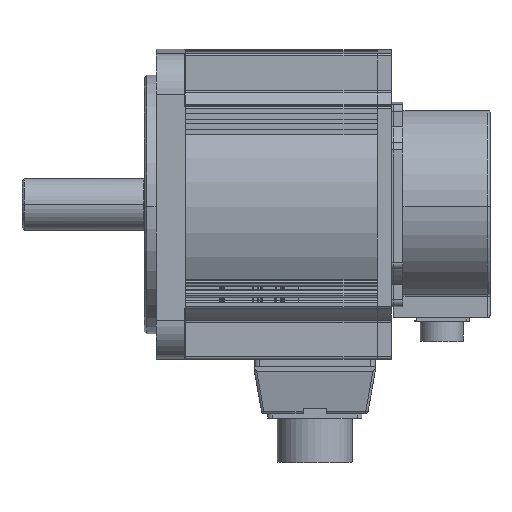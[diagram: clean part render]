
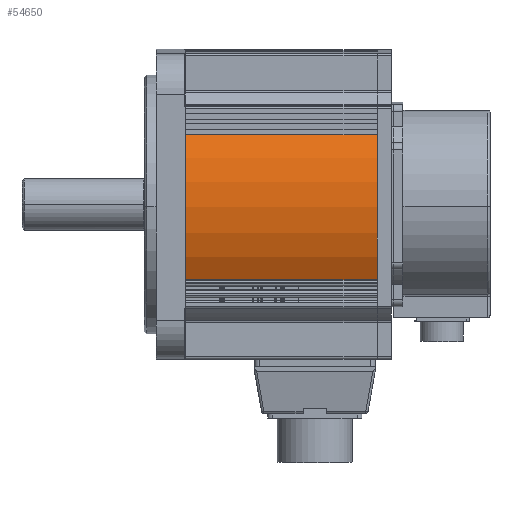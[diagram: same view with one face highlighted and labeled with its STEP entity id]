
A CAD part, top view. The second image highlights one B-rep face of the part: STEP entity #54650.
In plain terms, the highlighted cylindrical face has radius 65 mm (diameter 130 mm), a partial arc.
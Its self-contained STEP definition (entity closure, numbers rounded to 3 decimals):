
#462 = CARTESIAN_POINT ( 'NONE',  ( 83.147, 0., 0. ) ) ;
#968 = DIRECTION ( 'NONE',  ( 1., 0., 0. ) ) ;
#1437 = CYLINDRICAL_SURFACE ( 'NONE', #52011, 65. ) ;
#1650 = DIRECTION ( 'NONE',  ( 0., 1., 0.021 ) ) ;
#2431 = VERTEX_POINT ( 'NONE', #70654 ) ;
#4169 = VERTEX_POINT ( 'NONE', #7209 ) ;
#5994 = ORIENTED_EDGE ( 'NONE', *, *, #58411, .T. ) ;
#7209 = CARTESIAN_POINT ( 'NONE',  ( 1.647, -32.213, 56.456 ) ) ;
#11588 = DIRECTION ( 'NONE',  ( -1., 0., 0. ) ) ;
#16631 = ORIENTED_EDGE ( 'NONE', *, *, #22408, .T. ) ;
#16968 = ORIENTED_EDGE ( 'NONE', *, *, #71897, .F. ) ;
#19510 = CARTESIAN_POINT ( 'NONE',  ( 83.147, -32.213, 56.456 ) ) ;
#22291 = DIRECTION ( 'NONE',  ( -1., 0., 0. ) ) ;
#22408 = EDGE_CURVE ( 'NONE', #50248, #2431, #61840, .T. ) ;
#22545 = EDGE_CURVE ( 'NONE', #50248, #67124, #68979, .T. ) ;
#28108 = DIRECTION ( 'NONE',  ( 0., -1., -0.021 ) ) ;
#34363 = AXIS2_PLACEMENT_3D ( 'NONE', #462, #968, #41324 ) ;
#37190 = CARTESIAN_POINT ( 'NONE',  ( 1.647, 0., 0. ) ) ;
#39711 = CARTESIAN_POINT ( 'NONE',  ( 83.147, 0., 0. ) ) ;
#40263 = ORIENTED_EDGE ( 'NONE', *, *, #22545, .F. ) ;
#41324 = DIRECTION ( 'NONE',  ( 0., 1., 0.021 ) ) ;
#43884 = FACE_OUTER_BOUND ( 'NONE', #63070, .T. ) ;
#45513 = AXIS2_PLACEMENT_3D ( 'NONE', #37190, #47879, #1650 ) ;
#46308 = VECTOR ( 'NONE', #11588, 1000. ) ;
#47879 = DIRECTION ( 'NONE',  ( 1., 0., 0. ) ) ;
#50248 = VERTEX_POINT ( 'NONE', #65020 ) ;
#50411 = CARTESIAN_POINT ( 'NONE',  ( 83.147, -32.213, 56.456 ) ) ;
#52011 = AXIS2_PLACEMENT_3D ( 'NONE', #39711, #22291, #28108 ) ;
#52043 = CARTESIAN_POINT ( 'NONE',  ( 83.147, 29.773, 57.78 ) ) ;
#54329 = LINE ( 'NONE', #19510, #71636 ) ;
#54650 = ADVANCED_FACE ( 'NONE', ( #43884 ), #1437, .T. ) ;
#58411 = EDGE_CURVE ( 'NONE', #2431, #4169, #70401, .T. ) ;
#59031 = DIRECTION ( 'NONE',  ( -1., 0., 0. ) ) ;
#61840 = LINE ( 'NONE', #52043, #46308 ) ;
#63070 = EDGE_LOOP ( 'NONE', ( #5994, #16968, #40263, #16631 ) ) ;
#65020 = CARTESIAN_POINT ( 'NONE',  ( 83.147, 29.773, 57.78 ) ) ;
#67124 = VERTEX_POINT ( 'NONE', #50411 ) ;
#68979 = CIRCLE ( 'NONE', #34363, 65. ) ;
#70401 = CIRCLE ( 'NONE', #45513, 65. ) ;
#70654 = CARTESIAN_POINT ( 'NONE',  ( 1.647, 29.773, 57.78 ) ) ;
#71636 = VECTOR ( 'NONE', #59031, 1000. ) ;
#71897 = EDGE_CURVE ( 'NONE', #67124, #4169, #54329, .T. ) ;
